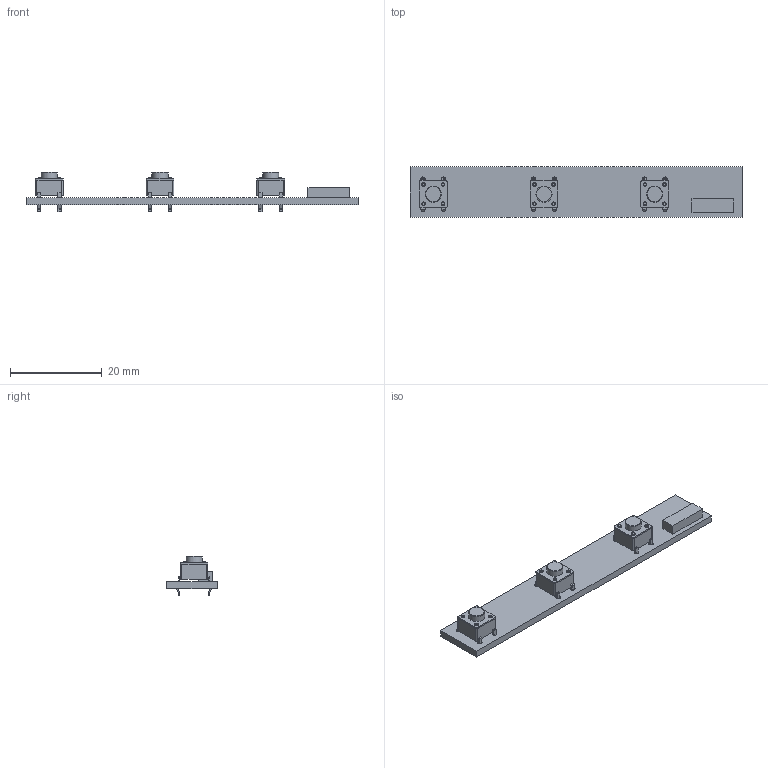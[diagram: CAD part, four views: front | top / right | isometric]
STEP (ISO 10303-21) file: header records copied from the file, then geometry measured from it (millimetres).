
FILE_DESCRIPTION(/* description */ (''),/* implementation_level */ '2;1');
FILE_NAME(/* name */ 'c:\worker\convert-fusion-r05\tmp\job-1\37\output\files\76971ec6-6a33-4faa-b4b6-880ead6ac8fc\b51ed58a-4112-413d-9bbb-e8d89ddb25dd.stp',/* time_stamp */ '2020-06-13T21:12:58+00:00',/* author */ (''),/* organization */ (''),/* preprocessor_version */ 'ST-DEVELOPER v18.1',/* originating_system */ 'Autodesk Translation Framework v9.3.0.1241',/* authorisation */ '');
FILE_SCHEMA (('AUTOMOTIVE_DESIGN { 1 0 10303 214 3 1 1 }'));
Length unit declared in the file: millimetre
Products named in the file (5): b51ed58a-4112-413d-9bbb-e8d89ddb25dd; PCB Component; Board; MA04-1; 1825910-6
Assembly tree (6 placements, depth 3):
  b51ed58a-4112-413d-9bbb-e8d89ddb25dd
    PCB Component
      Board
      MA04-1
      1825910-6  x3
Bounding box: 72.37 x 11.1 x 8.52 mm (x, y, z)
Volume: 1743.5 mm3; surface area: 2659.9 mm2
Topology: 5 solids, 5 shells, 382 faces, 1020 edges, 678 vertices
Faces by surface type: plane 216, cylinder 151, torus 15
Full cylindrical faces by diameter (mm): 0.8 x12, 0.99 x12, 1.016 x4, 3.51 x3
Entity records: 4971 total; most frequent: DIRECTION 837, CARTESIAN_POINT 803, ORIENTED_EDGE 776, EDGE_CURVE 388, AXIS2_PLACEMENT_3D 292, VERTEX_POINT 258, LINE 253, VECTOR 253
